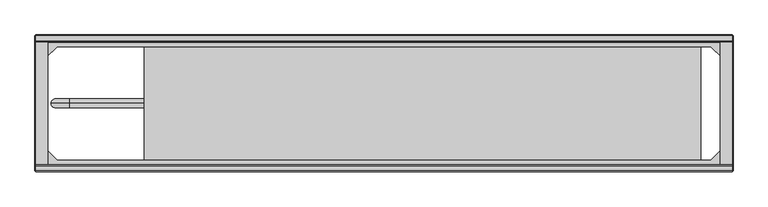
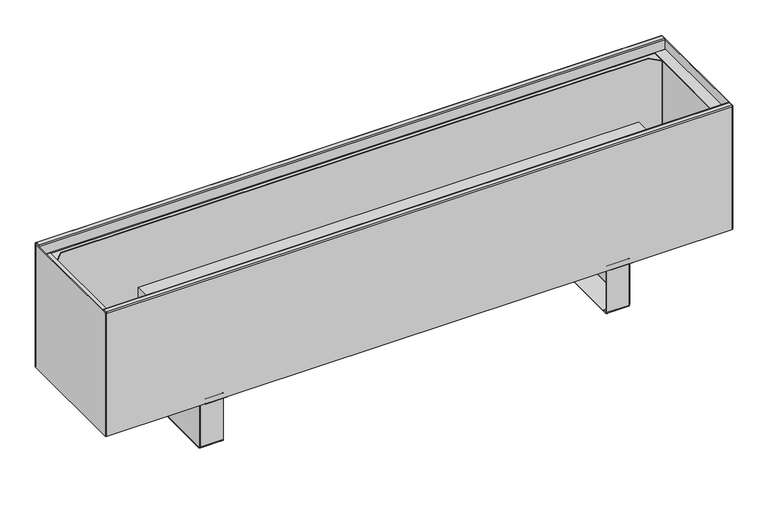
"""IFC4 building model written with IfcOpenShell, lengths in millimetres: proxy geometry, TECHNO_Конвектор напольный_Vita KPZ 235 : KPZ 235-250-2."""

from ifc_helpers import new_model, si_unit, point, frame, origin, place, context, project, spatial, polyline, circle_curve, ellipse_curve, trimmed, outline, extrude, source, transform, mapped, element, save
from ifc_brep_helpers import plane_surface, cylinder_surface, revolved_surface, advanced_brep


def mechanical_equipment_ce08395b(model_context):
    return source(origin(), model_context, "Body", "SolidModel", [
        advanced_brep(
        [(409.7, -116.8, 1.5), (409.7, -114.5, 3.8), (409.7, -114.5, 4.9), (409.7, -116.0, 4.9), (409.7, -116.0, 3.8), (409.7, -116.8, 3.0), (409.7, -124.5, 3.0), (409.7, -124.5, 1.5), (409.7, -117.6, 1.5), (409.7, -114.5, 97.7), (409.7, -113.7, 98.5), (409.7, -101.0, 98.5), (409.7, -101.0, 100.0), (409.7, -113.7, 100.0), (409.7, -116.0, 97.7), (409.7, -116.0, 95.5), (409.7, -114.5, 95.5), (409.7, -320.5, 3.8), (409.7, -318.2, 1.5), (409.7, -317.4, 1.5), (409.7, -310.5, 1.5), (409.7, -310.5, 3.0), (409.7, -318.2, 3.0), (409.7, -319.0, 3.8), (409.7, -319.0, 4.9), (409.7, -320.5, 4.9), (409.7, -319.0, 97.7), (409.7, -321.3, 100.0), (409.7, -334.0, 100.0), (409.7, -334.0, 98.5), (409.7, -321.3, 98.5), (409.7, -320.5, 97.7), (409.7, -320.5, 95.5), (409.7, -319.0, 95.5), (367.0, -320.5, 97.7), (367.0, -321.3, 98.5), (367.0, -334.0, 98.5), (367.0, -334.0, 100.0), (367.0, -321.3, 100.0), (367.0, -319.0, 97.7), (367.0, -319.0, 3.8), (367.0, -318.2, 3.0), (367.0, -310.5, 3.0), (367.0, -310.5, 1.5), (367.0, -124.5, 1.5), (367.0, -124.5, 3.0), (367.0, -116.8, 3.0), (367.0, -116.0, 3.8), (367.0, -116.0, 97.7), (367.0, -113.7, 100.0), (367.0, -101.0, 100.0), (367.0, -101.0, 98.5), (367.0, -113.7, 98.5), (367.0, -114.5, 97.7), (367.0, -114.5, 3.8), (367.0, -116.8, 1.5), (367.0, -117.6, 1.5), (367.0, -117.6, 0.0), (367.0, -317.4, 0.0), (367.0, -317.4, 1.5), (367.0, -318.2, 1.5), (367.0, -320.5, 3.8), (410.5, -116.8, 95.5), (410.5, -318.2, 95.5), (412.0, -318.2, 95.5), (412.0, -116.8, 95.5), (412.0, -116.8, 4.9), (412.0, -117.6, 4.9), (410.5, -117.6, 4.9), (410.5, -116.8, 4.9), (410.5, -318.2, 4.9), (410.5, -317.4, 4.9), (412.0, -317.4, 4.9), (412.0, -318.2, 4.9), (410.5, -117.6, 2.3), (410.5, -317.4, 2.3), (411.9999999, -317.4, 2.3), (412.0, -117.6, 2.3), (409.7, -117.6, 0.0), (409.7, -317.4, 0.0)],
        [
            (0, 1, circle_curve(frame((409.7, -116.8, 3.8), z_axis=(1.0, 0.0, 0.0), x_axis=(0.0, -1.0, 0.0)), 2.3)),
            (1, 2),
            (2, 3),
            (3, 4),
            (4, 5, circle_curve(frame((409.7, -116.8, 3.8), z_axis=(-1.0, 0.0, 0.0), x_axis=(0.0, -1.0, 0.0)), 0.8)),
            (5, 6),
            (6, 7),
            (7, 8),
            (8, 0),
            (9, 10, circle_curve(frame((409.7, -113.7, 97.7), z_axis=(-1.0, 0.0, 0.0), x_axis=(0.0, -1.0, 0.0)), 0.8)),
            (10, 11),
            (11, 12),
            (12, 13),
            (13, 14, circle_curve(frame((409.7, -113.7, 97.7), z_axis=(1.0, 0.0, 0.0), x_axis=(0.0, -1.0, 0.0)), 2.3)),
            (14, 15),
            (15, 16),
            (16, 9),
            (17, 18, circle_curve(frame((409.7, -318.2, 3.8), z_axis=(1.0, 0.0, 0.0), x_axis=(0.0, -1.0, 0.0)), 2.3)),
            (18, 19),
            (19, 20),
            (20, 21),
            (21, 22),
            (22, 23, circle_curve(frame((409.7, -318.2, 3.8), z_axis=(-1.0, 0.0, 0.0), x_axis=(0.0, -1.0, 0.0)), 0.8)),
            (23, 24),
            (24, 25),
            (25, 17),
            (26, 27, circle_curve(frame((409.7, -321.3, 97.7), z_axis=(1.0, 0.0, 0.0), x_axis=(0.0, -1.0, 0.0)), 2.3)),
            (27, 28),
            (28, 29),
            (29, 30),
            (30, 31, circle_curve(frame((409.7, -321.3, 97.7), z_axis=(-1.0, 0.0, 0.0), x_axis=(0.0, -1.0, 0.0)), 0.8)),
            (31, 32),
            (32, 33),
            (33, 26),
            (34, 35, circle_curve(frame((367.0, -321.3, 97.7), z_axis=(1.0, 0.0, 0.0), x_axis=(0.0, -1.0, 0.0)), 0.8)),
            (35, 36),
            (36, 37),
            (37, 38),
            (38, 39, circle_curve(frame((367.0, -321.3, 97.7), z_axis=(-1.0, 0.0, 0.0), x_axis=(0.0, -1.0, 0.0)), 2.3)),
            (39, 40),
            (40, 41, circle_curve(frame((367.0, -318.2, 3.8), z_axis=(1.0, 0.0, 0.0), x_axis=(0.0, -1.0, 0.0)), 0.8)),
            (41, 42),
            (42, 43),
            (43, 44),
            (44, 45),
            (45, 46),
            (46, 47, circle_curve(frame((367.0, -116.8, 3.8), z_axis=(1.0, 0.0, 0.0), x_axis=(0.0, -1.0, 0.0)), 0.8)),
            (47, 48),
            (48, 49, circle_curve(frame((367.0, -113.7, 97.7), z_axis=(-1.0, 0.0, 0.0), x_axis=(0.0, -1.0, 0.0)), 2.3)),
            (49, 50),
            (50, 51),
            (51, 52),
            (52, 53, circle_curve(frame((367.0, -113.7, 97.7), z_axis=(1.0, 0.0, 0.0), x_axis=(0.0, -1.0, 0.0)), 0.8)),
            (53, 54),
            (54, 55, circle_curve(frame((367.0, -116.8, 3.8), z_axis=(-1.0, 0.0, 0.0), x_axis=(0.0, -1.0, 0.0)), 2.3)),
            (55, 56),
            (56, 57),
            (57, 58),
            (58, 59),
            (59, 60),
            (60, 61, circle_curve(frame((367.0, -318.2, 3.8), z_axis=(-1.0, 0.0, 0.0), x_axis=(0.0, -1.0, 0.0)), 2.3)),
            (61, 34),
            (30, 35),
            (34, 31),
            (29, 36),
            (28, 37),
            (27, 38),
            (26, 39),
            (33, 24),
            (23, 40),
            (22, 41),
            (5, 46),
            (45, 6),
            (4, 47),
            (3, 15),
            (14, 48),
            (13, 49),
            (12, 50),
            (11, 51),
            (10, 52),
            (9, 53),
            (16, 2),
            (1, 54),
            (0, 55),
            (8, 56),
            (17, 61),
            (60, 18),
            (25, 32),
            (21, 42),
            (20, 43),
            (59, 19),
            (44, 7),
            (15, 62, circle_curve(frame((409.7, -116.8, 95.5), z_axis=(0.0, 0.0, -1.0), x_axis=(-1.0, 0.0, 0.0)), 0.8)),
            (62, 63),
            (63, 33, circle_curve(frame((409.7, -318.2, 95.5), z_axis=(0.0, 0.0, -1.0), x_axis=(-1.0, 0.0, 0.0)), 0.8)),
            (32, 64, circle_curve(frame((409.7, -318.2, 95.5), z_axis=(0.0, 0.0, 1.0), x_axis=(-1.0, 0.0, 0.0)), 2.3)),
            (64, 65),
            (65, 16, circle_curve(frame((409.7, -116.8, 95.5), z_axis=(0.0, 0.0, 1.0), x_axis=(-1.0, 0.0, 0.0)), 2.3)),
            (2, 66, circle_curve(frame((409.7, -116.8, 4.9), z_axis=(0.0, 0.0, -1.0), x_axis=(-1.0, 0.0, 0.0)), 2.3)),
            (66, 67),
            (67, 68),
            (68, 69),
            (69, 3, circle_curve(frame((409.7, -116.8, 4.9), z_axis=(0.0, 0.0, 1.0), x_axis=(-1.0, 0.0, 0.0)), 0.8)),
            (24, 70, circle_curve(frame((409.7, -318.2, 4.9), z_axis=(0.0, 0.0, 1.0), x_axis=(-1.0, 0.0, 0.0)), 0.8)),
            (70, 71),
            (71, 72),
            (72, 73),
            (73, 25, circle_curve(frame((409.7, -318.2, 4.9), z_axis=(0.0, 0.0, -1.0), x_axis=(-1.0, 0.0, 0.0)), 2.3)),
            (69, 62),
            (68, 74),
            (74, 75),
            (75, 71),
            (70, 63),
            (64, 73),
            (72, 76),
            (76, 77),
            (77, 67),
            (66, 65),
            (8, 74, circle_curve(frame((409.7, -117.6, 2.3), z_axis=(0.0, -1.0, 0.0), x_axis=(-1.0, 0.0, 0.0)), 0.8)),
            (77, 78, circle_curve(frame((409.7, -117.6, 2.3), z_axis=(0.0, 1.0, 0.0), x_axis=(-1.0, 0.0, 0.0)), 2.3)),
            (78, 57),
            (58, 79),
            (79, 76, circle_curve(frame((409.7, -317.4, 2.3), z_axis=(0.0, -1.0, 0.0), x_axis=(-1.0, 0.0, 0.0)), 2.3)),
            (75, 19, circle_curve(frame((409.7, -317.4, 2.3), z_axis=(0.0, 1.0, 0.0), x_axis=(-1.0, 0.0, 0.0)), 0.8)),
            (20, 7),
            (79, 78),
        ],
        [
            plane_surface(frame((409.7, -322.1, 97.7), z_axis=(1.0, 0.0, 0.0), x_axis=(0.0, 0.0, 1.0))),
            plane_surface(frame((367.0, -322.1, 97.7), z_axis=(-1.0, 0.0, 0.0), x_axis=(0.0, 0.0, -1.0))),
            revolved_surface(polyline([(409.7, -322.1, 97.7), (367.0, -322.1, 97.7)]), (409.7, -321.3, 97.7), (1.0, 0.0, 0.0)),
            plane_surface(frame((367.0, -321.3, 98.5), z_axis=(0.0, 0.0, -1.0), x_axis=(1.0, 0.0, 0.0))),
            plane_surface(frame((367.0, -334.0, 98.5), z_axis=(0.0, -1.0, 0.0), x_axis=(1.0, 0.0, 0.0))),
            plane_surface(frame((367.0, -334.0, 100.0), z_axis=(0.0, 0.0, 1.0), x_axis=(1.0, 0.0, 0.0))),
            cylinder_surface(frame((409.7, -321.3, 97.7), z_axis=(-1.0, 0.0, 0.0), x_axis=(0.0, -1.0, 0.0)), 2.3),
            plane_surface(frame((367.0, -319.0, 97.7), z_axis=(0.0, 1.0, 3.691903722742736e-12), x_axis=(1.0, 0.0, 0.0))),
            revolved_surface(polyline([(409.7, -319.0, 3.8), (367.0, -319.0, 3.8)]), (409.7, -318.2, 3.8), (1.0, 0.0, 0.0)),
            plane_surface(frame((367.0, -124.5, 3.0), z_axis=(0.0, 0.0, 1.0), x_axis=(1.0, 0.0, 0.0))),
            revolved_surface(polyline([(409.7, -117.6, 3.8), (367.0, -117.6, 3.8)]), (412.0, -116.8, 3.8), (1.0, 0.0, 0.0)),
            plane_surface(frame((367.0, -116.0, 3.8), z_axis=(0.0, -1.0, 0.0), x_axis=(1.0, 0.0, 0.0))),
            cylinder_surface(frame((412.0, -113.7, 97.7), z_axis=(-1.0, 0.0, 0.0), x_axis=(0.0, -1.0, 0.0)), 2.3),
            plane_surface(frame((367.0, -113.7, 100.0), z_axis=(0.0, 0.0, 1.0), x_axis=(1.0, 0.0, 0.0))),
            plane_surface(frame((367.0, -101.0, 100.0), z_axis=(0.0, 1.0, 0.0), x_axis=(1.0, 0.0, 0.0))),
            plane_surface(frame((367.0, -101.0, 98.5), z_axis=(0.0, 0.0, -1.0), x_axis=(1.0, 0.0, 0.0))),
            revolved_surface(polyline([(409.7, -114.5, 97.7), (367.0, -114.5, 97.7)]), (412.0, -113.7, 97.7), (1.0, 0.0, 0.0)),
            plane_surface(frame((367.0, -114.5, 97.7), z_axis=(0.0, 1.0, 0.0), x_axis=(1.0, 0.0, 0.0))),
            cylinder_surface(frame((412.0, -116.8, 3.8), z_axis=(-1.0, 0.0, 0.0), x_axis=(0.0, -1.0, 0.0)), 2.3),
            plane_surface(frame((367.0, -116.8, 1.5), z_axis=(0.0, 0.0, -1.0), x_axis=(1.0, 0.0, 0.0))),
            cylinder_surface(frame((409.7, -318.2, 3.8), z_axis=(-1.0, 0.0, 0.0), x_axis=(0.0, -1.0, 0.0)), 2.3),
            plane_surface(frame((367.0, -320.5, 3.8), z_axis=(0.0, -1.0, 0.0), x_axis=(1.0, 0.0, 0.0))),
            plane_surface(frame((367.0, -318.2, 3.0), z_axis=(0.0, 0.0, 1.0), x_axis=(1.0, 0.0, 0.0))),
            plane_surface(frame((367.0, -310.5, 3.0), z_axis=(0.0, 1.0, 0.0), x_axis=(1.0, 0.0, 0.0))),
            plane_surface(frame((367.0, -310.5, 1.5), z_axis=(0.0, 0.0, -1.0), x_axis=(1.0, 0.0, 0.0))),
            plane_surface(frame((367.0, -124.5, 1.5), z_axis=(0.0, -1.0, 0.0), x_axis=(1.0, 0.0, 0.0))),
            plane_surface(frame((409.7, -116.0, 95.5), z_axis=(0.0, 0.0, 1.0), x_axis=(0.0, -1.0, 0.0))),
            plane_surface(frame((409.7, -116.0, 4.9), z_axis=(0.0, 0.0, -1.0), x_axis=(0.0, 1.0, 0.0))),
            revolved_surface(polyline([(408.9, -116.8, 4.9), (408.9, -116.8, 95.5)]), (409.7, -116.8, 4.9), (0.0, 0.0, -1.0)),
            plane_surface(frame((410.5, -116.8, 95.5), z_axis=(-1.0, 0.0, 0.0), x_axis=(0.0, 0.0, -1.0))),
            plane_surface(frame((412.0, -117.6, 95.5), z_axis=(1.0, -4.3226800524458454e-10, 0.0), x_axis=(0.0, 0.0, -1.0))),
            cylinder_surface(frame((409.7, -116.8, 4.9), z_axis=(0.0, 0.0, 1.0), x_axis=(-1.0, 0.0, 0.0)), 2.3),
            cylinder_surface(frame((409.7, -318.2, 0.0), z_axis=(0.0, 0.0, 1.0), x_axis=(-1.0, 0.0, 0.0)), 2.3),
            revolved_surface(polyline([(408.9, -318.2, 4.9), (408.9, -318.2, 95.5)]), (409.7, -318.2, 0.0), (0.0, 0.0, -1.0)),
            plane_surface(frame((367.0, -117.6, 1.5), z_axis=(0.0, 1.0, 0.0), x_axis=(0.0, 0.0, 1.0))),
            plane_surface(frame((367.0, -317.4, 1.5), z_axis=(0.0, -1.0, 0.0), x_axis=(0.0, 0.0, -1.0))),
            plane_surface(frame((367.0, -117.6, 1.5), z_axis=(0.0, 0.0, 1.0), x_axis=(0.0, -1.0, 0.0))),
            revolved_surface(polyline([(408.9, -317.4, 2.3), (408.9, -117.6, 2.3)]), (409.7, -317.4, 2.3), (0.0, -1.0, 0.0)),
            cylinder_surface(frame((409.7, -317.4, 2.3), z_axis=(0.0, 1.0, 0.0), x_axis=(-1.0, 0.0, 0.0)), 2.3),
            plane_surface(frame((409.7, -117.6, 0.0), z_axis=(0.0, 0.0, -1.0), x_axis=(0.0, -1.0, 0.0))),
        ],
        [
            (0, [[1, 2, 3, 4, 5, 6, 7, 8, 9]]),
            (0, [[10, 11, 12, 13, 14, 15, 16, 17]]),
            (0, [[18, 19, 20, 21, 22, 23, 24, 25, 26]]),
            (0, [[27, 28, 29, 30, 31, 32, 33, 34]]),
            (1, [[35, 36, 37, 38, 39, 40, 41, 42, 43, 44, 45, 46, 47, 48, 49, 50, 51, 52, 53, 54, 55, 56, 57, 58, 59, 60, 61, 62]]),
            (2, [[-31, 63, -35, 64]]),
            (3, [[-30, 65, -36, -63]]),
            (4, [[-29, 66, -37, -65]]),
            (5, [[-28, 67, -38, -66]]),
            (6, [[-27, 68, -39, -67]]),
            (7, [[-40, -68, -34, 69, -24, 70]]),
            (8, [[-23, 71, -41, -70]]),
            (9, [[-6, 72, -46, 73]]),
            (10, [[-5, 74, -47, -72]]),
            (11, [[-48, -74, -4, 75, -15, 76]]),
            (12, [[-14, 77, -49, -76]]),
            (13, [[-13, 78, -50, -77]]),
            (14, [[-12, 79, -51, -78]]),
            (15, [[-11, 80, -52, -79]]),
            (16, [[-10, 81, -53, -80]]),
            (17, [[-54, -81, -17, 82, -2, 83]]),
            (18, [[-1, 84, -55, -83]]),
            (19, [[-84, -9, 85, -56]]),
            (20, [[-18, 86, -61, 87]]),
            (21, [[-62, -86, -26, 88, -32, -64]]),
            (22, [[-22, 89, -42, -71]]),
            (23, [[-21, 90, -43, -89]]),
            (24, [[-87, -60, 91, -19]]),
            (25, [[-7, -73, -45, 92]]),
            (26, [[93, 94, 95, -33, 96, 97, 98, -16]]),
            (27, [[99, 100, 101, 102, 103, -3]]),
            (27, [[104, 105, 106, 107, 108, -25]]),
            (28, [[-93, -75, -103, 109]]),
            (29, [[-94, -109, -102, 110, 111, 112, -105, 113]]),
            (30, [[-97, 114, -107, 115, 116, 117, -100, 118]]),
            (31, [[-98, -118, -99, -82]]),
            (32, [[-96, -88, -108, -114]]),
            (33, [[-95, -113, -104, -69]]),
            (34, [[-57, -85, 119, -110, -101, -117, 120, 121]]),
            (35, [[122, 123, -115, -106, -112, 124, -91, -59]]),
            (36, [[125, -92, -44, -90]]),
            (37, [[-119, -8, -125, -20, -124, -111]]),
            (38, [[-120, -116, -123, 126]]),
            (39, [[-121, -126, -122, -58]]),
        ],
    ),
        advanced_brep(
        [(-409.7, -318.2, 1.5), (-409.7, -320.5, 3.8), (-409.7, -320.5, 4.9), (-409.7, -319.0, 4.9), (-409.7, -319.0, 3.8), (-409.7, -318.2, 3.0), (-409.7, -310.5, 3.0), (-409.7, -310.5, 1.5), (-409.7, -317.4, 1.5), (-409.7, -320.5, 97.7), (-409.7, -321.3, 98.5), (-409.7, -334.0, 98.5), (-409.7, -334.0, 100.0), (-409.7, -321.3, 100.0), (-409.7, -319.0, 97.7), (-409.7, -319.0, 95.5), (-409.7, -320.5, 95.5), (-409.7, -114.5, 3.8), (-409.7, -116.8, 1.5), (-409.7, -117.6, 1.5), (-409.7, -124.5, 1.5), (-409.7, -124.5, 3.0), (-409.7, -116.8, 3.0), (-409.7, -116.0, 3.8), (-409.7, -116.0, 4.9), (-409.7, -114.5, 4.9), (-409.7, -116.0, 97.7), (-409.7, -113.7, 100.0), (-409.7, -101.0, 100.0), (-409.7, -101.0, 98.5), (-409.7, -113.7, 98.5), (-409.7, -114.5, 97.7), (-409.7, -114.5, 95.5), (-409.7, -116.0, 95.5), (-367.0, -114.5, 97.7), (-367.0, -113.7, 98.5), (-367.0, -101.0, 98.5), (-367.0, -101.0, 100.0), (-367.0, -113.7, 100.0), (-367.0, -116.0, 97.7), (-367.0, -116.0, 3.8), (-367.0, -116.8, 3.0), (-367.0, -124.5, 3.0), (-367.0, -124.5, 1.5), (-367.0, -310.5, 1.5), (-367.0, -310.5, 3.0), (-367.0, -318.2, 3.0), (-367.0, -319.0, 3.8), (-367.0, -319.0, 97.7), (-367.0, -321.3, 100.0), (-367.0, -334.0, 100.0), (-367.0, -334.0, 98.5), (-367.0, -321.3, 98.5), (-367.0, -320.5, 97.7), (-367.0, -320.5, 3.8), (-367.0, -318.2, 1.5), (-367.0, -317.4, 1.5), (-367.0, -317.4, 0.0), (-367.0, -117.6, 0.0), (-367.0, -117.6, 1.5), (-367.0, -116.8, 1.5), (-367.0, -114.5, 3.8), (-410.5, -318.2, 95.5), (-410.5, -116.8, 95.5), (-412.0, -116.8, 95.5), (-412.0, -318.2, 95.5), (-412.0, -318.2, 4.9), (-412.0, -317.4, 4.9), (-410.5, -317.4, 4.9), (-410.5, -318.2, 4.9), (-410.5, -116.8, 4.9), (-410.5, -117.6, 4.9), (-412.0, -117.6, 4.9), (-412.0, -116.8, 4.9), (-410.5, -317.4, 2.3), (-410.5, -117.6, 2.3), (-411.9999999, -117.6, 2.3), (-412.0, -317.4, 2.3), (-409.7, -317.4, 0.0), (-409.7, -117.6, 0.0)],
        [
            (0, 1, circle_curve(frame((-409.7, -318.2, 3.8), z_axis=(-1.0, 0.0, 0.0), x_axis=(0.0, 1.0, 0.0)), 2.3)),
            (1, 2),
            (2, 3),
            (3, 4),
            (4, 5, circle_curve(frame((-409.7, -318.2, 3.8), z_axis=(1.0, 0.0, 0.0), x_axis=(0.0, 1.0, 0.0)), 0.8)),
            (5, 6),
            (6, 7),
            (7, 8),
            (8, 0),
            (9, 10, circle_curve(frame((-409.7, -321.3, 97.7), z_axis=(1.0, 0.0, 0.0), x_axis=(0.0, 1.0, 0.0)), 0.8)),
            (10, 11),
            (11, 12),
            (12, 13),
            (13, 14, circle_curve(frame((-409.7, -321.3, 97.7), z_axis=(-1.0, 0.0, 0.0), x_axis=(0.0, 1.0, 0.0)), 2.3)),
            (14, 15),
            (15, 16),
            (16, 9),
            (17, 18, circle_curve(frame((-409.7, -116.8, 3.8), z_axis=(-1.0, 0.0, 0.0), x_axis=(0.0, 1.0, 0.0)), 2.3)),
            (18, 19),
            (19, 20),
            (20, 21),
            (21, 22),
            (22, 23, circle_curve(frame((-409.7, -116.8, 3.8), z_axis=(1.0, 0.0, 0.0), x_axis=(0.0, 1.0, 0.0)), 0.8)),
            (23, 24),
            (24, 25),
            (25, 17),
            (26, 27, circle_curve(frame((-409.7, -113.7, 97.7), z_axis=(-1.0, 0.0, 0.0), x_axis=(0.0, 1.0, 0.0)), 2.3)),
            (27, 28),
            (28, 29),
            (29, 30),
            (30, 31, circle_curve(frame((-409.7, -113.7, 97.7), z_axis=(1.0, 0.0, 0.0), x_axis=(0.0, 1.0, 0.0)), 0.8)),
            (31, 32),
            (32, 33),
            (33, 26),
            (34, 35, circle_curve(frame((-367.0, -113.7, 97.7), z_axis=(-1.0, 0.0, 0.0), x_axis=(0.0, 1.0, 0.0)), 0.8)),
            (35, 36),
            (36, 37),
            (37, 38),
            (38, 39, circle_curve(frame((-367.0, -113.7, 97.7), z_axis=(1.0, 0.0, 0.0), x_axis=(0.0, 1.0, 0.0)), 2.3)),
            (39, 40),
            (40, 41, circle_curve(frame((-367.0, -116.8, 3.8), z_axis=(-1.0, 0.0, 0.0), x_axis=(0.0, 1.0, 0.0)), 0.8)),
            (41, 42),
            (42, 43),
            (43, 44),
            (44, 45),
            (45, 46),
            (46, 47, circle_curve(frame((-367.0, -318.2, 3.8), z_axis=(-1.0, 0.0, 0.0), x_axis=(0.0, 1.0, 0.0)), 0.8)),
            (47, 48),
            (48, 49, circle_curve(frame((-367.0, -321.3, 97.7), z_axis=(1.0, 0.0, 0.0), x_axis=(0.0, 1.0, 0.0)), 2.3)),
            (49, 50),
            (50, 51),
            (51, 52),
            (52, 53, circle_curve(frame((-367.0, -321.3, 97.7), z_axis=(-1.0, 0.0, 0.0), x_axis=(0.0, 1.0, 0.0)), 0.8)),
            (53, 54),
            (54, 55, circle_curve(frame((-367.0, -318.2, 3.8), z_axis=(1.0, 0.0, 0.0), x_axis=(0.0, 1.0, 0.0)), 2.3)),
            (55, 56),
            (56, 57),
            (57, 58),
            (58, 59),
            (59, 60),
            (60, 61, circle_curve(frame((-367.0, -116.8, 3.8), z_axis=(1.0, 0.0, 0.0), x_axis=(0.0, 1.0, 0.0)), 2.3)),
            (61, 34),
            (30, 35),
            (34, 31),
            (29, 36),
            (28, 37),
            (27, 38),
            (26, 39),
            (33, 24),
            (23, 40),
            (22, 41),
            (5, 46),
            (45, 6),
            (4, 47),
            (3, 15),
            (14, 48),
            (13, 49),
            (12, 50),
            (11, 51),
            (10, 52),
            (9, 53),
            (16, 2),
            (1, 54),
            (0, 55),
            (8, 56),
            (17, 61),
            (60, 18),
            (25, 32),
            (21, 42),
            (20, 43),
            (59, 19),
            (44, 7),
            (15, 62, circle_curve(frame((-409.7, -318.2, 95.5), z_axis=(0.0, 0.0, -1.0), x_axis=(1.0, 0.0, 0.0)), 0.8)),
            (62, 63),
            (63, 33, circle_curve(frame((-409.7, -116.8, 95.5), z_axis=(0.0, 0.0, -1.0), x_axis=(1.0, 0.0, 0.0)), 0.8)),
            (32, 64, circle_curve(frame((-409.7, -116.8, 95.5), z_axis=(0.0, 0.0, 1.0), x_axis=(1.0, 0.0, 0.0)), 2.3)),
            (64, 65),
            (65, 16, circle_curve(frame((-409.7, -318.2, 95.5), z_axis=(0.0, 0.0, 1.0), x_axis=(1.0, 0.0, 0.0)), 2.3)),
            (2, 66, circle_curve(frame((-409.7, -318.2, 4.9), z_axis=(0.0, 0.0, -1.0), x_axis=(1.0, 0.0, 0.0)), 2.3)),
            (66, 67),
            (67, 68),
            (68, 69),
            (69, 3, circle_curve(frame((-409.7, -318.2, 4.9), z_axis=(0.0, 0.0, 1.0), x_axis=(1.0, 0.0, 0.0)), 0.8)),
            (24, 70, circle_curve(frame((-409.7, -116.8, 4.9), z_axis=(0.0, 0.0, 1.0), x_axis=(1.0, 0.0, 0.0)), 0.8)),
            (70, 71),
            (71, 72),
            (72, 73),
            (73, 25, circle_curve(frame((-409.7, -116.8, 4.9), z_axis=(0.0, 0.0, -1.0), x_axis=(1.0, 0.0, 0.0)), 2.3)),
            (69, 62),
            (68, 74),
            (74, 75),
            (75, 71),
            (70, 63),
            (64, 73),
            (72, 76),
            (76, 77),
            (77, 67),
            (66, 65),
            (8, 74, circle_curve(frame((-409.7, -317.4, 2.3), z_axis=(0.0, 1.0, 0.0), x_axis=(1.0, 0.0, 0.0)), 0.8)),
            (77, 78, circle_curve(frame((-409.7, -317.4, 2.3), z_axis=(0.0, -1.0, 0.0), x_axis=(1.0, 0.0, 0.0)), 2.3)),
            (78, 57),
            (58, 79),
            (79, 76, circle_curve(frame((-409.7, -117.6, 2.3), z_axis=(0.0, 1.0, 0.0), x_axis=(1.0, 0.0, 0.0)), 2.3)),
            (75, 19, circle_curve(frame((-409.7, -117.6, 2.3), z_axis=(0.0, -1.0, 0.0), x_axis=(1.0, 0.0, 0.0)), 0.8)),
            (20, 7),
            (79, 78),
        ],
        [
            plane_surface(frame((-409.7, -112.9, 97.7), z_axis=(-1.0, 0.0, 0.0), x_axis=(0.0, 0.0, 1.0))),
            plane_surface(frame((-367.0, -112.9, 97.7), z_axis=(1.0, 0.0, 0.0), x_axis=(0.0, 0.0, -1.0))),
            revolved_surface(polyline([(-409.7, -112.9, 97.7), (-367.0, -112.9, 97.7)]), (-409.7, -113.7, 97.7), (-1.0, 0.0, 0.0)),
            plane_surface(frame((-367.0, -113.7, 98.5), z_axis=(0.0, 0.0, -1.0), x_axis=(-1.0, 0.0, 0.0))),
            plane_surface(frame((-367.0, -101.0, 98.5), z_axis=(0.0, 1.0, 0.0), x_axis=(-1.0, 0.0, 0.0))),
            plane_surface(frame((-367.0, -101.0, 100.0), z_axis=(0.0, 0.0, 1.0), x_axis=(-1.0, 0.0, 0.0))),
            cylinder_surface(frame((-409.7, -113.7, 97.7), z_axis=(1.0, 0.0, 0.0), x_axis=(0.0, 1.0, 0.0)), 2.3),
            plane_surface(frame((-367.0, -116.0, 97.7), z_axis=(0.0, -1.0, 3.691903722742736e-12), x_axis=(-1.0, 0.0, 0.0))),
            revolved_surface(polyline([(-409.7, -116.0, 3.8), (-367.0, -116.0, 3.8)]), (-409.7, -116.8, 3.8), (-1.0, 0.0, 0.0)),
            plane_surface(frame((-367.0, -310.5, 3.0), z_axis=(0.0, 0.0, 1.0), x_axis=(-1.0, 0.0, 0.0))),
            revolved_surface(polyline([(-409.7, -317.4, 3.8), (-367.0, -317.4, 3.8)]), (-412.0, -318.2, 3.8), (-1.0, 0.0, 0.0)),
            plane_surface(frame((-367.0, -319.0, 3.8), z_axis=(0.0, 1.0, 0.0), x_axis=(-1.0, 0.0, 0.0))),
            cylinder_surface(frame((-412.0, -321.3, 97.7), z_axis=(1.0, 0.0, 0.0), x_axis=(0.0, 1.0, 0.0)), 2.3),
            plane_surface(frame((-367.0, -321.3, 100.0), z_axis=(0.0, 0.0, 1.0), x_axis=(-1.0, 0.0, 0.0))),
            plane_surface(frame((-367.0, -334.0, 100.0), z_axis=(0.0, -1.0, 0.0), x_axis=(-1.0, 0.0, 0.0))),
            plane_surface(frame((-367.0, -334.0, 98.5), z_axis=(0.0, 0.0, -1.0), x_axis=(-1.0, 0.0, 0.0))),
            revolved_surface(polyline([(-409.7, -320.5, 97.7), (-367.0, -320.5, 97.7)]), (-412.0, -321.3, 97.7), (-1.0, 0.0, 0.0)),
            plane_surface(frame((-367.0, -320.5, 97.7), z_axis=(0.0, -1.0, 0.0), x_axis=(-1.0, 0.0, 0.0))),
            cylinder_surface(frame((-412.0, -318.2, 3.8), z_axis=(1.0, 0.0, 0.0), x_axis=(0.0, 1.0, 0.0)), 2.3),
            plane_surface(frame((-367.0, -318.2, 1.5), z_axis=(0.0, 0.0, -1.0), x_axis=(-1.0, 0.0, 0.0))),
            cylinder_surface(frame((-409.7, -116.8, 3.8), z_axis=(1.0, 0.0, 0.0), x_axis=(0.0, 1.0, 0.0)), 2.3),
            plane_surface(frame((-367.0, -114.5, 3.8), z_axis=(0.0, 1.0, 0.0), x_axis=(-1.0, 0.0, 0.0))),
            plane_surface(frame((-367.0, -116.8, 3.0), z_axis=(0.0, 0.0, 1.0), x_axis=(-1.0, 0.0, 0.0))),
            plane_surface(frame((-367.0, -124.5, 3.0), z_axis=(0.0, -1.0, 0.0), x_axis=(-1.0, 0.0, 0.0))),
            plane_surface(frame((-367.0, -124.5, 1.5), z_axis=(0.0, 0.0, -1.0), x_axis=(-1.0, 0.0, 0.0))),
            plane_surface(frame((-367.0, -310.5, 1.5), z_axis=(0.0, 1.0, 0.0), x_axis=(-1.0, 0.0, 0.0))),
            plane_surface(frame((-409.7, -319.0, 95.5), z_axis=(0.0, 0.0, 1.0), x_axis=(0.0, 1.0, 0.0))),
            plane_surface(frame((-409.7, -319.0, 4.9), z_axis=(0.0, 0.0, -1.0), x_axis=(0.0, -1.0, 0.0))),
            revolved_surface(polyline([(-408.9, -318.2, 4.9), (-408.9, -318.2, 95.5)]), (-409.7, -318.2, 4.9), (0.0, 0.0, -1.0)),
            plane_surface(frame((-410.5, -318.2, 95.5), z_axis=(1.0, 0.0, 0.0), x_axis=(0.0, 0.0, -1.0))),
            plane_surface(frame((-412.0, -317.4, 95.5), z_axis=(-1.0, 4.3226484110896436e-10, 0.0), x_axis=(0.0, 0.0, -1.0))),
            cylinder_surface(frame((-409.7, -318.2, 4.9), z_axis=(0.0, 0.0, 1.0), x_axis=(1.0, 0.0, 0.0)), 2.3),
            cylinder_surface(frame((-409.7, -116.8, 0.0), z_axis=(0.0, 0.0, 1.0), x_axis=(1.0, 0.0, 0.0)), 2.3),
            revolved_surface(polyline([(-408.9, -116.8, 4.9), (-408.9, -116.8, 95.5)]), (-409.7, -116.8, 0.0), (0.0, 0.0, -1.0)),
            plane_surface(frame((-367.0, -317.4, 1.5), z_axis=(0.0, -1.0, 0.0), x_axis=(0.0, 0.0, 1.0))),
            plane_surface(frame((-367.0, -117.6, 1.5), z_axis=(0.0, 1.0, 0.0), x_axis=(0.0, 0.0, -1.0))),
            plane_surface(frame((-367.0, -317.4, 1.5), z_axis=(0.0, 0.0, 1.0), x_axis=(0.0, 1.0, 0.0))),
            revolved_surface(polyline([(-408.9, -117.6, 2.3), (-408.9, -317.4, 2.3)]), (-409.7, -117.6, 2.3), (0.0, 1.0, 0.0)),
            cylinder_surface(frame((-409.7, -117.6, 2.3), z_axis=(0.0, -1.0, 0.0), x_axis=(1.0, 0.0, 0.0)), 2.3),
            plane_surface(frame((-409.7, -317.4, 0.0), z_axis=(0.0, 0.0, -1.0), x_axis=(0.0, 1.0, 0.0))),
        ],
        [
            (0, [[1, 2, 3, 4, 5, 6, 7, 8, 9]]),
            (0, [[10, 11, 12, 13, 14, 15, 16, 17]]),
            (0, [[18, 19, 20, 21, 22, 23, 24, 25, 26]]),
            (0, [[27, 28, 29, 30, 31, 32, 33, 34]]),
            (1, [[35, 36, 37, 38, 39, 40, 41, 42, 43, 44, 45, 46, 47, 48, 49, 50, 51, 52, 53, 54, 55, 56, 57, 58, 59, 60, 61, 62]]),
            (2, [[-31, 63, -35, 64]]),
            (3, [[-30, 65, -36, -63]]),
            (4, [[-29, 66, -37, -65]]),
            (5, [[-28, 67, -38, -66]]),
            (6, [[-27, 68, -39, -67]]),
            (7, [[-40, -68, -34, 69, -24, 70]]),
            (8, [[-23, 71, -41, -70]]),
            (9, [[-6, 72, -46, 73]]),
            (10, [[-5, 74, -47, -72]]),
            (11, [[-48, -74, -4, 75, -15, 76]]),
            (12, [[-14, 77, -49, -76]]),
            (13, [[-13, 78, -50, -77]]),
            (14, [[-12, 79, -51, -78]]),
            (15, [[-11, 80, -52, -79]]),
            (16, [[-10, 81, -53, -80]]),
            (17, [[-54, -81, -17, 82, -2, 83]]),
            (18, [[-1, 84, -55, -83]]),
            (19, [[-84, -9, 85, -56]]),
            (20, [[-18, 86, -61, 87]]),
            (21, [[-62, -86, -26, 88, -32, -64]]),
            (22, [[-22, 89, -42, -71]]),
            (23, [[-21, 90, -43, -89]]),
            (24, [[-87, -60, 91, -19]]),
            (25, [[-7, -73, -45, 92]]),
            (26, [[93, 94, 95, -33, 96, 97, 98, -16]]),
            (27, [[99, 100, 101, 102, 103, -3]]),
            (27, [[104, 105, 106, 107, 108, -25]]),
            (28, [[-93, -75, -103, 109]]),
            (29, [[-94, -109, -102, 110, 111, 112, -105, 113]]),
            (30, [[-97, 114, -107, 115, 116, 117, -100, 118]]),
            (31, [[-98, -118, -99, -82]]),
            (32, [[-96, -88, -108, -114]]),
            (33, [[-95, -113, -104, -69]]),
            (34, [[-57, -85, 119, -110, -101, -117, 120, 121]]),
            (35, [[122, 123, -115, -106, -112, 124, -91, -59]]),
            (36, [[125, -92, -44, -90]]),
            (37, [[-119, -8, -125, -20, -124, -111]]),
            (38, [[-120, -116, -123, 126]]),
            (39, [[-121, -126, -122, -58]]),
        ],
    ),
        advanced_brep(
        [(-412.0, -217.5, 186.5), (-412.0, -217.5, 171.5), (-540.0, -217.5, 186.5), (-540.0, -217.5, 171.5), (-557.5, -217.5, 154.0), (-572.5, -217.5, 154.0), (-572.5, -217.5, 100.0), (-557.5, -217.5, 100.0)],
        [
            (0, 1, circle_curve(frame((-412.0, -217.5, 179.0), z_axis=(1.0, 0.0, 0.0), x_axis=(0.0, 0.0, -1.0)), 7.5)),
            (1, 0, circle_curve(frame((-412.0, -217.5, 179.0), z_axis=(1.0, 0.0, 0.0), x_axis=(0.0, 0.0, -1.0)), 7.5)),
            (0, 2),
            (2, 3, circle_curve(frame((-540.0, -217.5, 179.0), z_axis=(1.0, 0.0, 0.0), x_axis=(0.0, 0.0, -1.0)), 7.5)),
            (3, 1),
            (3, 2, circle_curve(frame((-540.0, -217.5, 179.0), z_axis=(1.0, 0.0, 0.0), x_axis=(0.0, 0.0, -1.0)), 7.5)),
            (4, 3, circle_curve(frame((-540.0, -217.5, 154.0), z_axis=(0.0, 1.0, 0.0), x_axis=(0.0, 0.0, 1.0)), 17.5)),
            (2, 5, circle_curve(frame((-540.0, -217.5, 154.0), z_axis=(0.0, -1.0, 0.0), x_axis=(0.0, 0.0, 1.0)), 32.5)),
            (5, 4, circle_curve(frame((-565.0, -217.5, 154.0), z_axis=(0.0, 0.0, 1.0), x_axis=(1.0, 0.0, 0.0)), 7.5)),
            (4, 5, circle_curve(frame((-565.0, -217.5, 154.0), z_axis=(0.0, 0.0, 1.0), x_axis=(1.0, 0.0, 0.0)), 7.5)),
            (6, 7, circle_curve(frame((-565.0, -217.5, 100.0), z_axis=(0.0, 0.0, -1.0), x_axis=(1.0, 0.0, 0.0)), 7.5)),
            (7, 6, circle_curve(frame((-565.0, -217.5, 100.0), z_axis=(0.0, 0.0, -1.0), x_axis=(1.0, 0.0, 0.0)), 7.5)),
            (5, 6),
            (7, 4),
        ],
        [
            plane_surface(frame((-412.0, -217.5, 179.0), z_axis=(1.0, 0.0, 0.0), x_axis=(0.0, -1.0, 0.0))),
            cylinder_surface(frame((-412.0, -217.5, 179.0), z_axis=(1.0, 0.0, 0.0), x_axis=(0.0, 0.0, -1.0)), 7.5),
            revolved_surface(trimmed(ellipse_curve(frame((-540.0, -217.5, 179.0), z_axis=(1.0, 0.0, 0.0), x_axis=(0.0, 0.0, -1.0)), 7.5, 7.5), [point((-540.0, -217.5, 186.5))], [point((-540.0, -217.5, 171.5))], True, "CARTESIAN"), (-540.0, -217.5, 154.0), (0.0, -1.0, 0.0)),
            revolved_surface(trimmed(ellipse_curve(frame((-540.0, -217.5, 179.0), z_axis=(1.0, 0.0, 0.0), x_axis=(0.0, 0.0, -1.0)), 7.5, 7.5), [point((-540.0, -217.5, 171.5))], [point((-540.0, -217.5, 186.5))], True, "CARTESIAN"), (-540.0, -217.5, 154.0), (0.0, -1.0, 0.0)),
            plane_surface(frame((-565.0, -217.5, 100.0), z_axis=(0.0, 0.0, -1.0), x_axis=(0.0, -1.0, 0.0))),
            cylinder_surface(frame((-565.0, -217.5, 154.0), z_axis=(0.0, 0.0, 1.0), x_axis=(1.0, 0.0, 0.0)), 7.5),
        ],
        [
            (0, [[1, 2]]),
            (1, [[-1, 3, 4, 5]]),
            (1, [[-2, -5, 6, -3]]),
            (2, [[7, -4, 8, 9]]),
            (3, [[-8, -6, -7, 10]]),
            (4, [[11, 12]]),
            (5, [[-9, 13, -12, 14]]),
            (5, [[-10, -14, -11, -13]]),
        ],
    ),
        advanced_brep(
        [(-412.0, -217.5, 136.5), (-412.0, -217.5, 121.5), (-522.5, -217.5, 136.5), (-507.5, -217.5, 121.5), (-522.5, -217.5, 100.0), (-507.5, -217.5, 100.0)],
        [
            (0, 1, circle_curve(frame((-412.0, -217.5, 129.0), z_axis=(1.0, 0.0, 0.0), x_axis=(0.0, 0.0, -1.0)), 7.5)),
            (1, 0, circle_curve(frame((-412.0, -217.5, 129.0), z_axis=(1.0, 0.0, 0.0), x_axis=(0.0, 0.0, -1.0)), 7.5)),
            (0, 2),
            (2, 3, ellipse_curve(frame((-515.0, -217.5, 129.0), z_axis=(0.7071067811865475, 0.0, 0.7071067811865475), x_axis=(0.7071067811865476, 0.0, -0.7071067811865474)), 10.6066017, 7.5)),
            (3, 1),
            (3, 2, ellipse_curve(frame((-515.0, -217.5, 129.0), z_axis=(0.7071067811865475, 0.0, 0.7071067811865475), x_axis=(0.7071067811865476, 0.0, -0.7071067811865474)), 10.6066017, 7.5)),
            (4, 5, circle_curve(frame((-515.0, -217.5, 100.0), z_axis=(0.0, 0.0, -1.0), x_axis=(1.0, 0.0, 0.0)), 7.5)),
            (5, 4, circle_curve(frame((-515.0, -217.5, 100.0), z_axis=(0.0, 0.0, -1.0), x_axis=(1.0, 0.0, 0.0)), 7.5)),
            (2, 4),
            (5, 3),
        ],
        [
            plane_surface(frame((-412.0, -217.5, 129.0), z_axis=(1.0, 0.0, 0.0), x_axis=(0.0, -1.0, 0.0))),
            cylinder_surface(frame((-412.0, -217.5, 129.0), z_axis=(1.0, 0.0, 0.0), x_axis=(0.0, 0.0, -1.0)), 7.5),
            plane_surface(frame((-515.0, -217.5, 100.0), z_axis=(0.0, 0.0, -1.0), x_axis=(0.0, -1.0, 0.0))),
            cylinder_surface(frame((-515.0, -217.5, 129.0), z_axis=(0.0, 0.0, 1.0), x_axis=(1.0, 0.0, 0.0)), 7.5),
        ],
        [
            (0, [[1, 2]]),
            (1, [[-1, 3, 4, 5]]),
            (1, [[-2, -5, 6, -3]]),
            (2, [[7, 8]]),
            (3, [[-4, 9, -8, 10]]),
            (3, [[-6, -10, -7, -9]]),
        ],
    ),
        extrude(outline(polyline([(544.75, -117.5), (544.75, -317.5), (-412.0, -317.5), (-412.0, -117.5), (544.75, -117.5)])), frame((0.0, 0.0, 103.87), z_axis=(0.0, 0.0, 1.0), x_axis=(1.0, 0.0, 0.0)), (0.0, 0.0, 1.0), 100.0),
        extrude(outline(polyline([(-585.5004, -102.0), (-585.5004, -333.0), (-599.0, -333.0), (-599.0, -102.0), (-585.5004, -102.0)])), frame((0.0, 0.0, 101.83), z_axis=(0.0, 0.0, 1.0), x_axis=(1.0, 0.0, 0.0)), (0.0, 0.0, 1.0), 1.0002),
        extrude(outline(polyline([(585.5004, -102.0), (599.0, -102.0), (599.0, -333.0), (585.5004, -333.0), (585.5004, -102.0)])), frame((0.0, 0.0, 101.83), z_axis=(0.0, 0.0, 1.0), x_axis=(1.0, 0.0, 0.0)), (0.0, 0.0, 1.0), 1.0002),
        extrude(outline(polyline([(-599.0, -322.2), (-599.0, -112.8), (-578.0, -112.8), (-578.0, -322.2), (-599.0, -322.2)])), frame((0.0, 0.0, 328.83), z_axis=(0.0, 0.0, 1.0), x_axis=(1.0, 0.0, 0.0)), (0.0, 0.0, 1.0), 1.0002),
        extrude(outline(polyline([(599.0, -322.2), (578.0, -322.2), (578.0, -112.8), (599.0, -112.8), (599.0, -322.2)])), frame((0.0, 0.0, 328.83), z_axis=(0.0, 0.0, 1.0), x_axis=(1.0, 0.0, 0.0)), (0.0, 0.0, 1.0), 1.0002),
        advanced_brep(
        [(-598.2, -101.8, 350.83), (-598.2, -100.0, 349.03), (-598.2, -101.0, 349.03), (-598.2, -101.0, 327.83), (-598.2, -138.5, 327.83), (-598.2, -138.5, 328.83), (-598.2, -112.8, 328.83), (-598.2, -112.0, 329.63), (-598.2, -112.0, 349.03), (-598.2, -110.2, 350.83), (-598.2, -333.2, 350.83), (-598.2, -324.8, 350.83), (-598.2, -323.0, 349.03), (-598.2, -323.0, 329.63), (-598.2, -322.2, 328.83), (-598.2, -296.5, 328.83), (-598.2, -296.5, 327.83), (-598.2, -334.0, 327.83), (-598.2, -334.0, 349.03), (-598.2, -335.0, 349.03), (598.2, -101.8, 350.83), (598.2, -110.2, 350.83), (598.2, -112.0, 349.03), (598.2, -112.0, 329.63), (598.2, -112.8, 328.83), (598.2, -138.5, 328.83), (598.2, -138.5, 327.83), (598.2, -101.0, 327.83), (598.2, -101.0, 349.03), (598.2, -100.0, 349.03), (598.2, -333.2, 350.83), (598.2, -335.0, 349.03), (598.2, -334.0, 349.03), (598.2, -334.0, 327.83), (598.2, -296.5, 327.83), (598.2, -296.5, 328.83), (598.2, -322.2, 328.83), (598.2, -323.0, 329.63), (598.2, -323.0, 349.03), (598.2, -324.8, 350.83), (-580.3, -138.5, 328.83), (-561.8, -120.0, 328.83), (561.8, -120.0, 328.83), (580.3, -138.5, 328.83), (-580.3, -138.5, 327.83), (580.3, -138.5, 327.83), (561.8, -120.0, 327.83), (-561.8, -120.0, 327.83), (598.2, -100.0, 100.0), (-598.2, -100.0, 100.0), (-598.2, -335.0, 100.0), (598.2, -335.0, 100.0), (580.3, -296.5, 327.83), (-580.3, -296.5, 327.83), (-561.8, -315.0, 327.83), (561.8, -315.0, 327.83), (-580.3, -296.5, 328.83), (580.3, -296.5, 328.83), (561.8, -315.0, 328.83), (-561.8, -315.0, 328.83), (-600.0, -101.8, 349.03), (-600.0, -333.2, 349.03), (-599.0, -333.2, 349.03), (-599.0, -101.8, 349.03), (600.0, -333.2, 349.03), (600.0, -101.8, 349.03), (599.0, -101.8, 349.03), (599.0, -333.2, 349.03), (600.0, -101.8, 100.0), (600.0, -333.2, 100.0), (-600.0, -333.2, 100.0), (-600.0, -101.8, 100.0), (599.0, -101.8, 100.0), (598.2, -101.0, 100.0), (598.2, -113.0, 100.0), (-598.2, -113.0, 100.0), (-598.2, -101.0, 100.0), (-599.0, -101.8, 100.0), (-599.0, -333.2, 100.0), (-598.2, -334.0, 100.0), (-598.2, -322.0, 100.0), (598.2, -322.0, 100.0), (598.2, -334.0, 100.0), (599.0, -333.2, 100.0), (-598.2, -101.0, 100.83), (598.2, -101.0, 100.83), (598.2, -334.0, 100.83), (-598.2, -334.0, 100.83), (-598.2, -113.0, 100.83), (598.2, -113.0, 100.83), (598.2, -322.0, 100.83), (-598.2, -322.0, 100.83)],
        [
            (0, 1, circle_curve(frame((-598.2, -101.8, 349.03), z_axis=(-1.0, 0.0, 0.0), x_axis=(0.0, 1.0, 0.0)), 1.8)),
            (1, 2),
            (2, 3),
            (3, 4),
            (4, 5),
            (5, 6),
            (6, 7, circle_curve(frame((-598.2, -112.8, 329.63), z_axis=(1.0, 0.0, 0.0), x_axis=(0.0, 1.0, 0.0)), 0.8)),
            (7, 8),
            (8, 9, circle_curve(frame((-598.2, -110.2, 349.03), z_axis=(-1.0, 0.0, 0.0), x_axis=(0.0, 1.0, 0.0)), 1.8)),
            (9, 0),
            (10, 11),
            (11, 12, circle_curve(frame((-598.2, -324.8, 349.03), z_axis=(-1.0, 0.0, 0.0), x_axis=(0.0, 1.0, 0.0)), 1.8)),
            (12, 13),
            (13, 14, circle_curve(frame((-598.2, -322.2, 329.63), z_axis=(1.0, 0.0, 0.0), x_axis=(0.0, 1.0, 0.0)), 0.8)),
            (14, 15),
            (15, 16),
            (16, 17),
            (17, 18),
            (18, 19),
            (19, 10, circle_curve(frame((-598.2, -333.2, 349.03), z_axis=(-1.0, 0.0, 0.0), x_axis=(0.0, 1.0, 0.0)), 1.8)),
            (20, 21),
            (21, 22, circle_curve(frame((598.2, -110.2, 349.03), z_axis=(1.0, 0.0, 0.0), x_axis=(0.0, 1.0, 0.0)), 1.8)),
            (22, 23),
            (23, 24, circle_curve(frame((598.2, -112.8, 329.63), z_axis=(-1.0, 0.0, 0.0), x_axis=(0.0, 1.0, 0.0)), 0.8)),
            (24, 25),
            (25, 26),
            (26, 27),
            (27, 28),
            (28, 29),
            (29, 20, circle_curve(frame((598.2, -101.8, 349.03), z_axis=(1.0, 0.0, 0.0), x_axis=(0.0, 1.0, 0.0)), 1.8)),
            (30, 31, circle_curve(frame((598.2, -333.2, 349.03), z_axis=(1.0, 0.0, 0.0), x_axis=(0.0, 1.0, 0.0)), 1.8)),
            (31, 32),
            (32, 33),
            (33, 34),
            (34, 35),
            (35, 36),
            (36, 37, circle_curve(frame((598.2, -322.2, 329.63), z_axis=(-1.0, 0.0, 0.0), x_axis=(0.0, 1.0, 0.0)), 0.8)),
            (37, 38),
            (38, 39, circle_curve(frame((598.2, -324.8, 349.03), z_axis=(1.0, 0.0, 0.0), x_axis=(0.0, 1.0, 0.0)), 1.8)),
            (39, 30),
            (9, 21),
            (20, 0),
            (8, 22),
            (7, 23),
            (6, 24),
            (5, 40),
            (40, 41),
            (41, 42),
            (42, 43),
            (43, 25),
            (4, 44),
            (44, 40),
            (43, 45),
            (45, 26),
            (45, 46),
            (46, 47),
            (47, 44),
            (3, 27),
            (1, 29),
            (29, 48),
            (48, 49),
            (49, 1),
            (19, 31),
            (30, 10),
            (19, 50),
            (50, 51),
            (51, 31),
            (52, 34),
            (33, 17),
            (16, 53),
            (53, 54),
            (54, 55),
            (55, 52),
            (15, 56),
            (56, 53),
            (52, 57),
            (57, 35),
            (14, 36),
            (57, 58),
            (58, 59),
            (59, 56),
            (13, 37),
            (12, 38),
            (11, 39),
            (42, 46),
            (41, 47),
            (58, 55),
            (54, 59),
            (1, 60, circle_curve(frame((-598.2, -101.8, 349.03), z_axis=(0.0, 0.0, 1.0), x_axis=(1.0, 0.0, 0.0)), 1.8)),
            (60, 61),
            (61, 19, circle_curve(frame((-598.2, -333.2, 349.03), z_axis=(0.0, 0.0, 1.0), x_axis=(1.0, 0.0, 0.0)), 1.8)),
            (18, 62, circle_curve(frame((-598.2, -333.2, 349.03), z_axis=(0.0, 0.0, -1.0), x_axis=(1.0, 0.0, 0.0)), 0.8)),
            (62, 63),
            (63, 2, circle_curve(frame((-598.2, -101.8, 349.03), z_axis=(0.0, 0.0, -1.0), x_axis=(1.0, 0.0, 0.0)), 0.8)),
            (31, 64, circle_curve(frame((598.2, -333.2, 349.03), z_axis=(0.0, 0.0, 1.0), x_axis=(1.0, 0.0, 0.0)), 1.8)),
            (64, 65),
            (65, 29, circle_curve(frame((598.2, -101.8, 349.03), z_axis=(0.0, 0.0, 1.0), x_axis=(1.0, 0.0, 0.0)), 1.8)),
            (28, 66, circle_curve(frame((598.2, -101.8, 349.03), z_axis=(0.0, 0.0, -1.0), x_axis=(1.0, 0.0, 0.0)), 0.8)),
            (66, 67),
            (67, 32, circle_curve(frame((598.2, -333.2, 349.03), z_axis=(0.0, 0.0, -1.0), x_axis=(1.0, 0.0, 0.0)), 0.8)),
            (48, 68, circle_curve(frame((598.2, -101.8, 100.0), z_axis=(0.0, 0.0, -1.0), x_axis=(1.0, 0.0, 0.0)), 1.8)),
            (68, 69),
            (69, 51, circle_curve(frame((598.2, -333.2, 100.0), z_axis=(0.0, 0.0, -1.0), x_axis=(1.0, 0.0, 0.0)), 1.8)),
            (50, 70, circle_curve(frame((-598.2, -333.2, 100.0), z_axis=(0.0, 0.0, -1.0), x_axis=(1.0, 0.0, 0.0)), 1.8)),
            (70, 71),
            (71, 49, circle_curve(frame((-598.2, -101.8, 100.0), z_axis=(0.0, 0.0, -1.0), x_axis=(1.0, 0.0, 0.0)), 1.8)),
            (72, 73, circle_curve(frame((598.2, -101.8, 100.0), z_axis=(0.0, 0.0, 1.0), x_axis=(1.0, 0.0, 0.0)), 0.8)),
            (73, 74),
            (74, 75),
            (75, 76),
            (76, 77, circle_curve(frame((-598.2, -101.8, 100.0), z_axis=(0.0, 0.0, 1.0), x_axis=(1.0, 0.0, 0.0)), 0.8)),
            (77, 78),
            (78, 79, circle_curve(frame((-598.2, -333.2, 100.0), z_axis=(0.0, 0.0, 1.0), x_axis=(1.0, 0.0, 0.0)), 0.8)),
            (79, 80),
            (80, 81),
            (81, 82),
            (82, 83, circle_curve(frame((598.2, -333.2, 100.0), z_axis=(0.0, 0.0, 1.0), x_axis=(1.0, 0.0, 0.0)), 0.8)),
            (83, 72),
            (71, 60),
            (63, 77),
            (76, 84),
            (84, 3),
            (84, 85),
            (85, 27),
            (85, 73),
            (72, 66),
            (83, 67),
            (64, 69),
            (68, 65),
            (82, 86),
            (86, 33),
            (86, 87),
            (87, 17),
            (87, 79),
            (78, 62),
            (70, 61),
            (88, 89),
            (89, 85),
            (84, 88),
            (90, 91),
            (91, 87),
            (86, 90),
            (74, 89),
            (88, 75),
            (80, 91),
            (90, 81),
        ],
        [
            plane_surface(frame((-598.2, -110.2, 350.83), z_axis=(-1.0, 0.0, 0.0), x_axis=(0.0, 1.0, 0.0))),
            plane_surface(frame((598.2, -110.2, 350.83), z_axis=(1.0, 0.0, 0.0), x_axis=(0.0, -1.0, 0.0))),
            plane_surface(frame((598.2, -101.8, 350.83), z_axis=(0.0, 0.0, 1.0), x_axis=(-1.0, 0.0, 0.0))),
            cylinder_surface(frame((-598.2, -110.2, 349.03), z_axis=(1.0, 0.0, 0.0), x_axis=(0.0, 1.0, 0.0)), 1.8),
            plane_surface(frame((598.2, -112.0, 349.03), z_axis=(0.0, -1.0, 0.0), x_axis=(-1.0, 0.0, 0.0))),
            revolved_surface(polyline([(-598.2, -112.0, 329.63), (598.2, -112.0, 329.63)]), (-598.2, -112.8, 329.63), (-1.0, 0.0, 0.0)),
            plane_surface(frame((598.2, -112.8, 328.83), z_axis=(0.0, 0.0, 1.0), x_axis=(-1.0, 0.0, 0.0))),
            plane_surface(frame((598.2, -138.5, 328.83), z_axis=(0.0, -1.0, 0.0), x_axis=(-1.0, 0.0, 0.0))),
            plane_surface(frame((598.2, -138.5, 327.83), z_axis=(0.0, 0.0, -1.0), x_axis=(-1.0, 0.0, 0.0))),
            plane_surface(frame((598.2, -100.0, 327.83), z_axis=(0.0, 1.0, 0.0), x_axis=(-1.0, 0.0, 0.0))),
            cylinder_surface(frame((-598.2, -101.8, 349.03), z_axis=(1.0, 0.0, 0.0), x_axis=(0.0, 1.0, 0.0)), 1.8),
            cylinder_surface(frame((0.0, -333.2, 349.03), z_axis=(1.0, 0.0, 0.0), x_axis=(0.0, 1.0, 0.0)), 1.8),
            plane_surface(frame((598.2, -335.0, 349.03), z_axis=(0.0, -1.0, 0.0), x_axis=(-1.0, 0.0, 0.0))),
            plane_surface(frame((598.2, -335.0, 327.83), z_axis=(0.0, 0.0, -1.0), x_axis=(-1.0, 0.0, 0.0))),
            plane_surface(frame((598.2, -296.5, 327.83), z_axis=(0.0, 1.0, 0.0), x_axis=(-1.0, 0.0, 0.0))),
            plane_surface(frame((598.2, -296.5, 328.83), z_axis=(0.0, 0.0, 1.0), x_axis=(-1.0, 0.0, 0.0))),
            revolved_surface(polyline([(-598.2, -321.4, 329.63), (598.2, -321.4, 329.63)]), (0.0, -322.2, 329.63), (-1.0, 0.0, 0.0)),
            plane_surface(frame((598.2, -323.0, 329.63), z_axis=(0.0, 1.0, 0.0), x_axis=(-1.0, 0.0, 0.0))),
            cylinder_surface(frame((0.0, -324.8, 349.03), z_axis=(1.0, 0.0, 0.0), x_axis=(0.0, 1.0, 0.0)), 1.8),
            plane_surface(frame((598.2, -324.8, 350.83), z_axis=(0.0, 0.0, 1.0), x_axis=(-1.0, 0.0, 0.0))),
            plane_surface(frame((580.3, -138.5, 328.83), z_axis=(-0.7071067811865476, -0.7071067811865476, 0.0), x_axis=(0.0, 0.0, -1.0))),
            plane_surface(frame((561.8, -120.0, 328.83), z_axis=(0.0, -1.0, 0.0), x_axis=(0.0, 0.0, -1.0))),
            plane_surface(frame((-561.8, -120.0, 328.83), z_axis=(0.7071067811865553, -0.7071067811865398, 0.0), x_axis=(0.0, 0.0, -1.0))),
            plane_surface(frame((-561.8, -315.0, 328.83), z_axis=(0.0, 1.0, 0.0), x_axis=(0.0, 0.0, -1.0))),
            plane_surface(frame((561.8, -315.0, 328.83), z_axis=(-0.7071067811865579, 0.7071067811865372, 0.0), x_axis=(0.0, 0.0, -1.0))),
            plane_surface(frame((-580.3, -296.5, 328.83), z_axis=(0.7071067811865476, 0.7071067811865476, 0.0), x_axis=(0.0, 0.0, -1.0))),
            plane_surface(frame((-598.2, -100.0, 349.03), z_axis=(0.0, 0.0, 1.0), x_axis=(-1.0, 0.0, 0.0))),
            plane_surface(frame((-598.2, -100.0, 100.0), z_axis=(0.0, 0.0, -1.0), x_axis=(1.0, 0.0, 0.0))),
            cylinder_surface(frame((-598.2, -101.8, 100.0), z_axis=(0.0, 0.0, 1.0), x_axis=(1.0, 0.0, 0.0)), 1.8),
            revolved_surface(polyline([(-597.4000000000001, -101.8, 100.0), (-597.4000000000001, -101.8, 349.03)]), (-598.2, -101.8, 0.0), (0.0, 0.0, -1.0)),
            plane_surface(frame((-598.2, -101.0, 349.03), z_axis=(0.0, -1.0, 0.0), x_axis=(0.0, 0.0, -1.0))),
            revolved_surface(polyline([(599.0, -101.8, 100.0), (599.0, -101.8, 349.03)]), (598.2, -101.8, 0.0), (0.0, 0.0, -1.0)),
            plane_surface(frame((599.0, -101.8, 349.03), z_axis=(-1.0, 0.0, 0.0), x_axis=(0.0, 0.0, -1.0))),
            plane_surface(frame((600.0, -333.2, 349.03), z_axis=(1.0, 0.0, 0.0), x_axis=(0.0, 0.0, -1.0))),
            cylinder_surface(frame((598.2, -101.8, 100.0), z_axis=(0.0, 0.0, 1.0), x_axis=(1.0, 0.0, 0.0)), 1.8),
            cylinder_surface(frame((598.2, -333.2, 100.0), z_axis=(0.0, 0.0, 1.0), x_axis=(1.0, 0.0, 0.0)), 1.8),
            revolved_surface(polyline([(599.0, -333.2, 100.0), (599.0, -333.2, 349.03)]), (598.2, -333.2, 0.0), (0.0, 0.0, -1.0)),
            plane_surface(frame((598.2, -334.0, 349.03), z_axis=(0.0, 1.0, 0.0), x_axis=(0.0, 0.0, -1.0))),
            revolved_surface(polyline([(-597.4000000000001, -333.2, 100.0), (-597.4000000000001, -333.2, 349.03)]), (-598.2, -333.2, 0.0), (0.0, 0.0, -1.0)),
            plane_surface(frame((-600.0, -101.8, 349.03), z_axis=(-1.0, 0.0, 0.0), x_axis=(0.0, 0.0, -1.0))),
            cylinder_surface(frame((-598.2, -333.2, 100.0), z_axis=(0.0, 0.0, 1.0), x_axis=(1.0, 0.0, 0.0)), 1.8),
            plane_surface(frame((-599.0, -333.2, 349.03), z_axis=(1.0, 0.0, 0.0), x_axis=(0.0, 0.0, -1.0))),
            plane_surface(frame((598.2, -113.0, 100.83), z_axis=(0.0, 0.0, 1.0), x_axis=(1.0, 0.0, 0.0))),
            plane_surface(frame((-598.2, -113.0, 100.83), z_axis=(0.0, -1.0, 0.0), x_axis=(0.0, 0.0, -1.0))),
            plane_surface(frame((598.2, -113.0, 100.83), z_axis=(1.0, 0.0, 0.0), x_axis=(0.0, 0.0, -1.0))),
            plane_surface(frame((-598.2, -101.0, 100.83), z_axis=(-1.0, 0.0, 0.0), x_axis=(0.0, 0.0, -1.0))),
            plane_surface(frame((598.2, -322.0, 100.83), z_axis=(0.0, 1.0, 0.0), x_axis=(0.0, 0.0, -1.0))),
            plane_surface(frame((-598.2, -322.0, 100.83), z_axis=(-1.0, 0.0, 0.0), x_axis=(0.0, 0.0, -1.0))),
            plane_surface(frame((598.2, -334.0, 100.83), z_axis=(1.0, 0.0, 0.0), x_axis=(0.0, 0.0, -1.0))),
        ],
        [
            (0, [[1, 2, 3, 4, 5, 6, 7, 8, 9, 10]]),
            (0, [[11, 12, 13, 14, 15, 16, 17, 18, 19, 20]]),
            (1, [[21, 22, 23, 24, 25, 26, 27, 28, 29, 30]]),
            (1, [[31, 32, 33, 34, 35, 36, 37, 38, 39, 40]]),
            (2, [[-10, 41, -21, 42]]),
            (3, [[-9, 43, -22, -41]]),
            (4, [[-8, 44, -23, -43]]),
            (5, [[-7, 45, -24, -44]]),
            (6, [[-6, 46, 47, 48, 49, 50, -25, -45]]),
            (7, [[-5, 51, 52, -46]]),
            (7, [[-26, -50, 53, 54]]),
            (8, [[-54, 55, 56, 57, -51, -4, 58, -27]]),
            (9, [[59, 60, 61, 62]]),
            (10, [[-1, -42, -30, -59]]),
            (11, [[-20, 63, -31, 64]]),
            (12, [[-63, 65, 66, 67]]),
            (13, [[68, -34, 69, -17, 70, 71, 72, 73]]),
            (14, [[-16, 74, 75, -70]]),
            (14, [[-35, -68, 76, 77]]),
            (15, [[-15, 78, -36, -77, 79, 80, 81, -74]]),
            (16, [[-14, 82, -37, -78]]),
            (17, [[-13, 83, -38, -82]]),
            (18, [[-12, 84, -39, -83]]),
            (19, [[-11, -64, -40, -84]]),
            (20, [[85, -55, -53, -49]]),
            (21, [[-85, -48, 86, -56]]),
            (22, [[-86, -47, -52, -57]]),
            (23, [[87, -72, 88, -80]]),
            (24, [[-87, -79, -76, -73]]),
            (25, [[-88, -71, -75, -81]]),
            (26, [[89, 90, 91, -19, 92, 93, 94, -2]]),
            (26, [[95, 96, 97, -29, 98, 99, 100, -32]]),
            (27, [[101, 102, 103, -66, 104, 105, 106, -61], [107, 108, 109, 110, 111, 112, 113, 114, 115, 116, 117, 118]]),
            (28, [[-89, -62, -106, 119]]),
            (29, [[-94, 120, -111, 121, 122, -3]]),
            (30, [[-58, -122, 123, 124]]),
            (31, [[-98, -28, -124, 125, -107, 126]]),
            (32, [[-99, -126, -118, 127]]),
            (33, [[-96, 128, -102, 129]]),
            (34, [[-97, -129, -101, -60]]),
            (35, [[-95, -67, -103, -128]]),
            (36, [[-100, -127, -117, 130, 131, -33]]),
            (37, [[-69, -131, 132, 133]]),
            (38, [[-92, -18, -133, 134, -113, 135]]),
            (39, [[-90, -119, -105, 136]]),
            (40, [[-91, -136, -104, -65]]),
            (41, [[-93, -135, -112, -120]]),
            (42, [[137, 138, -123, 139]]),
            (42, [[140, 141, -132, 142]]),
            (43, [[-109, 143, -137, 144]]),
            (44, [[-108, -125, -138, -143]]),
            (45, [[-110, -144, -139, -121]]),
            (46, [[-115, 145, -140, 146]]),
            (47, [[-114, -134, -141, -145]]),
            (48, [[-116, -146, -142, -130]]),
        ],
    ),
    ])


if __name__ == "__main__":
    model = new_model("IFC4")
    model_context = context("Model", 3, world=origin())
    ifc_project = project(units=[si_unit("LENGTHUNIT", "METRE", prefix="MILLI")], contexts=[model_context])
    site = spatial("IfcSite", under=ifc_project)
    building = spatial("IfcBuilding", under=site)
    placement = place(None, origin())
    mechanical_equipment_shape = mechanical_equipment_ce08395b(model_context)
    element("IfcBuildingElementProxy", 1, Name="TECHNO_Конвектор напольный_Vita KPZ 235 : KPZ 235-250-2", ObjectType="TECHNO_Конвектор напольный_Vita KPZ 235 : KPZ 235-250-2", at=placement, inside=building, context=model_context, shape_type="MappedRepresentation", body=[
        mapped(mechanical_equipment_shape, transform((0.0, 0.0, 0.0), x_axis=(1.0, 0.0, 0.0), y_axis=(0.0, 1.0, 0.0), z_axis=(0.0, 0.0, 1.0))),
    ])
    save(model, "model.ifc")
